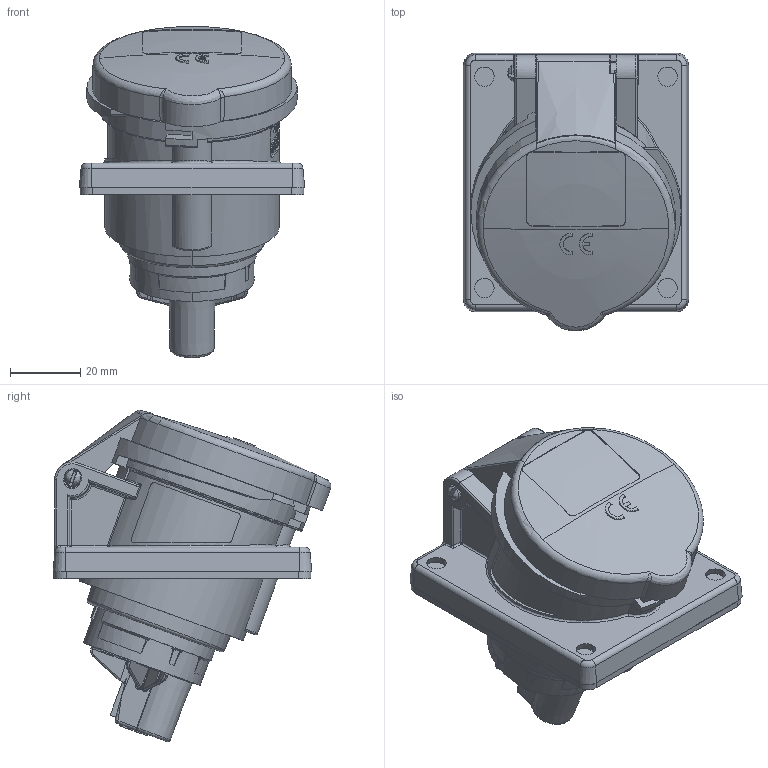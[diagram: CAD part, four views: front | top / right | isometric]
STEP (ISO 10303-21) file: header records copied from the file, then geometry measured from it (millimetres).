
FILE_DESCRIPTION((''),'2;1');
FILE_NAME('927_DUMMY_SW0001','2017-10-13T',('gisse'),('MENNEKES'),'PRO/ENGINEER BY PARAMETRIC TECHNOLOGY CORPORATION, 2015440','PRO/ENGINEER BY PARAMETRIC TECHNOLOGY CORPORATION, 2015440','');
FILE_SCHEMA(('AUTOMOTIVE_DESIGN { 1 0 10303 214 1 1 1 1 }'));
Length unit declared in the file: millimetre
Products named in the file (1): 927_DUMMY_SW0001
Bounding box: 64 x 78.96 x 94.09 mm (x, y, z)
Volume: 162040.3 mm3; surface area: 29681 mm2
Topology: 1 solids, 1 shells, 1501 faces, 4107 edges, 2668 vertices
Faces by surface type: plane 1060, cylinder 227, bspline 115, torus 45, cone 45, sphere 5, extrusion 4
Entity records: 71681 total; most frequent: CARTESIAN_POINT 18087, ORIENTED_EDGE 8202, DIRECTION 6279, EDGE_CURVE 4101, FILL_AREA_STYLE_COLOUR 2893, FILL_AREA_STYLE 2893, SURFACE_STYLE_FILL_AREA 2893, SURFACE_SIDE_STYLE 2893
